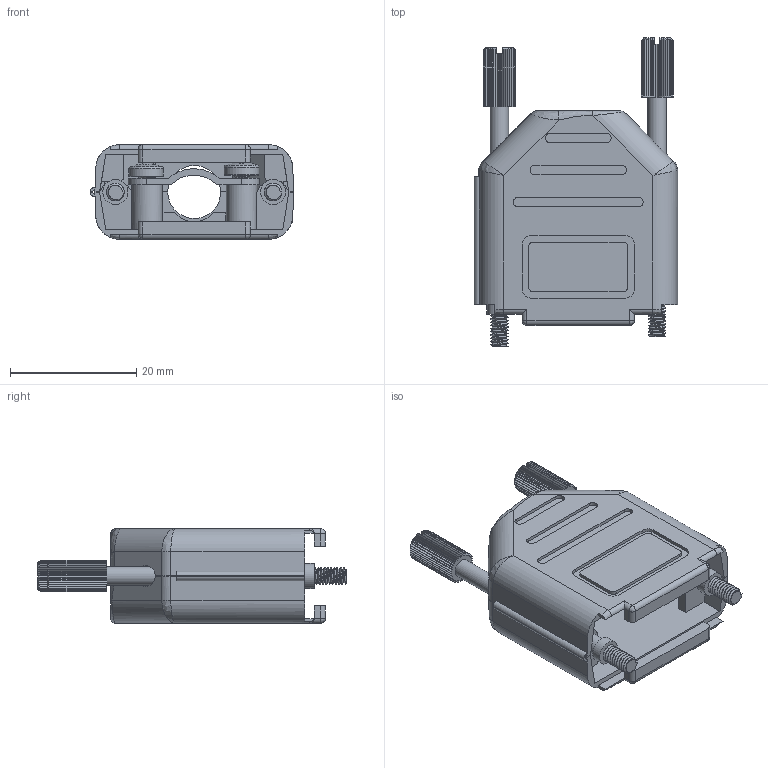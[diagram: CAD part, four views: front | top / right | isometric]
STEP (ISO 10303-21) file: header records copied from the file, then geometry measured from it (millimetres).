
FILE_DESCRIPTION((''),'2;1');
FILE_NAME('D:\_NTC CAD MODELS & ASSEMBLIES - STEP\STEP FILES\covers - mh\mhdeppk series -\mhdeppk9k\mhdeppk9k_assy.stp','2016-05-10T12:34:57',('j_dipietro'),(''),'Autodesk Inventor 2012','Autodesk Inventor 2012','');
FILE_SCHEMA(('CONFIG_CONTROL_DESIGN'));
Length unit declared in the file: inch
Products named in the file (6): mhdeppk9k_assy; mhdeppk9k_bot; mhdeppk9k_top; thumbscrew; screw; 9c clip
Assembly tree (7 placements, depth 2):
  mhdeppk9k_assy
    mhdeppk9k_bot
    mhdeppk9k_top
    thumbscrew  x2
    screw  x2
    9c clip
Bounding box: 32.21 x 48.9 x 14.99 mm (x, y, z)
Volume: 5234.4 mm3; surface area: 8884.2 mm2
Topology: 7 solids, 7 shells, 631 faces, 1726 edges, 1126 vertices
Faces by surface type: plane 395, cylinder 187, bspline 26, cone 11, sphere 6, torus 6
Full cylindrical faces by diameter (mm): 1.905 x2, 2.54 x2, 2.921 x2, 3.175 x2, 3.962 x2, 4.826 x2, 5.486 x2
Entity records: 16713 total; most frequent: CARTESIAN_POINT 5034, ORIENTED_EDGE 2470, DIRECTION 2326, EDGE_CURVE 1235, VERTEX_POINT 813, VECTOR 780, LINE 780, AXIS2_PLACEMENT_3D 773
